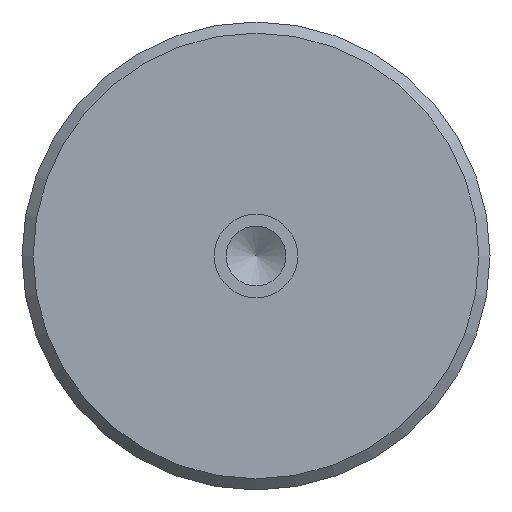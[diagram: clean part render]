
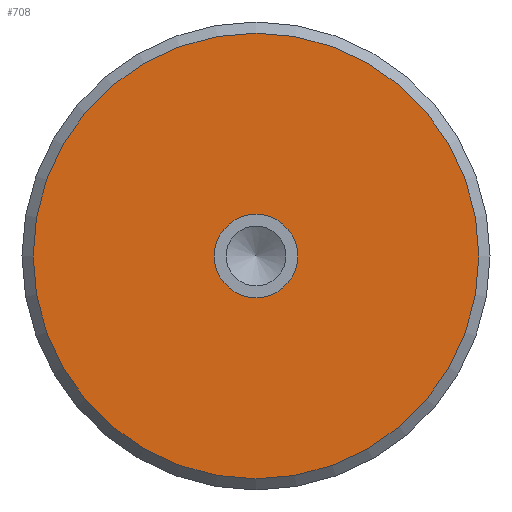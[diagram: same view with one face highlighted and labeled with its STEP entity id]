
A CAD part, front view. The second image highlights one B-rep face of the part: STEP entity #708.
In plain terms, the highlighted planar face has unit normal (0, -1, 0).
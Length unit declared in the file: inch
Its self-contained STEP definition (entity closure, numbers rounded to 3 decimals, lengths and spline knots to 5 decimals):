
#32=FACE_BOUND('',#125,.T.);
#47=PLANE('',#817);
#77=FACE_OUTER_BOUND('',#124,.T.);
#124=EDGE_LOOP('',(#550));
#125=EDGE_LOOP('',(#551,#552));
#230=CIRCLE('',#807,0.14764);
#231=CIRCLE('',#808,0.14764);
#234=CIRCLE('',#813,0.7874);
#304=VERTEX_POINT('',#1224);
#305=VERTEX_POINT('',#1225);
#308=VERTEX_POINT('',#1236);
#387=EDGE_CURVE('',#304,#305,#230,.T.);
#388=EDGE_CURVE('',#305,#304,#231,.T.);
#394=EDGE_CURVE('',#308,#308,#234,.T.);
#550=ORIENTED_EDGE('',*,*,#394,.F.);
#551=ORIENTED_EDGE('',*,*,#387,.T.);
#552=ORIENTED_EDGE('',*,*,#388,.T.);
#708=ADVANCED_FACE('',(#77,#32),#47,.F.);
#807=AXIS2_PLACEMENT_3D('',#1226,#994,#995);
#808=AXIS2_PLACEMENT_3D('',#1227,#996,#997);
#813=AXIS2_PLACEMENT_3D('',#1238,#1009,#1010);
#817=AXIS2_PLACEMENT_3D('',#1245,#1018,#1019);
#994=DIRECTION('center_axis',(0.,1.,0.));
#995=DIRECTION('ref_axis',(1.,0.,0.));
#996=DIRECTION('center_axis',(0.,1.,0.));
#997=DIRECTION('ref_axis',(1.,0.,0.));
#1009=DIRECTION('center_axis',(0.,1.,0.));
#1010=DIRECTION('ref_axis',(1.,0.,0.));
#1018=DIRECTION('center_axis',(0.,1.,0.));
#1019=DIRECTION('ref_axis',(0.,0.,1.));
#1224=CARTESIAN_POINT('',(-1.78698,-0.58165,-1.26944));
#1225=CARTESIAN_POINT('',(-2.08226,-0.58165,-1.26944));
#1226=CARTESIAN_POINT('Origin',(-1.93462,-0.58165,-1.26944));
#1227=CARTESIAN_POINT('Origin',(-1.93462,-0.58165,-1.26944));
#1236=CARTESIAN_POINT('',(-2.72202,-0.58165,-1.26944));
#1238=CARTESIAN_POINT('Origin',(-1.93462,-0.58165,-1.26944));
#1245=CARTESIAN_POINT('Origin',(-1.93462,-0.58165,-1.26944));
